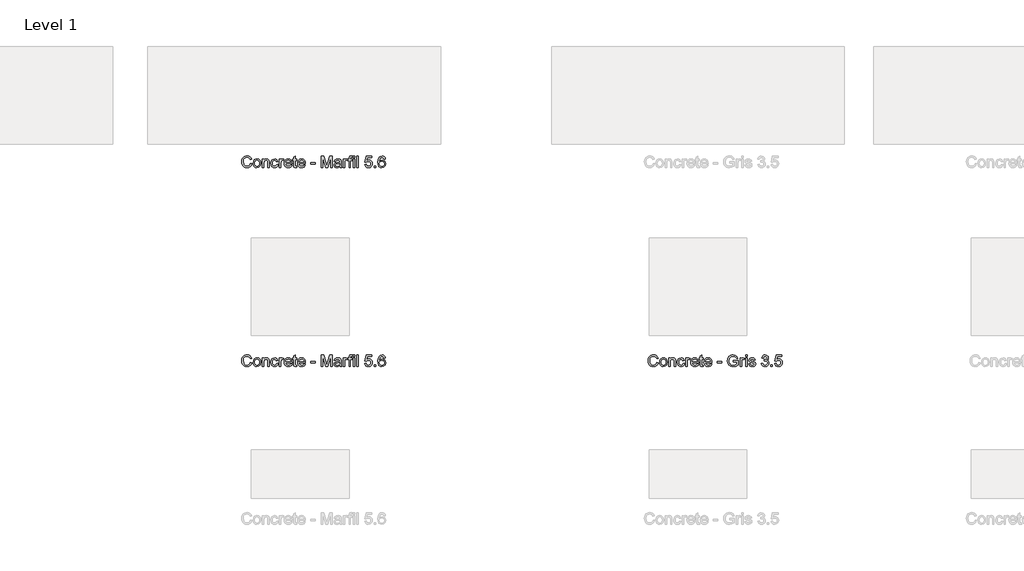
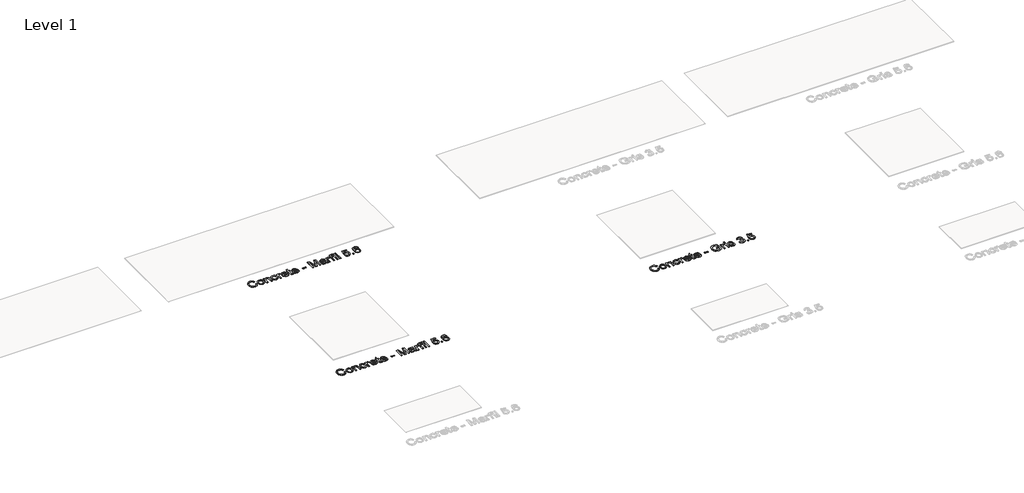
# One storey, part 45 of 80: 3 proxies.
"""IFC4 building model written with IfcOpenShell, lengths in millimetres."""

from ifc_helpers import new_model, si_unit, origin, origin_with_axes, place, context, project, spatial, polyline, outline, extrude, element, save

model = new_model("IFC4")

# Units and contexts
model_context = context("Model", 3, world=origin())
ifc_project = project(units=[si_unit("LENGTHUNIT", "METRE", prefix="MILLI")], contexts=[model_context])

# Site, building, storey
site = spatial("IfcSite", under=ifc_project)
building = spatial("IfcBuilding", under=site)
storey = spatial("IfcBuildingStorey", under=building, Name="Level 1", Elevation=0.0)

# Proxies
placement = place(None, origin())
element("IfcBuildingElementProxy", 1, Name="24\" Arial", ObjectType="24\" Arial", at=placement, inside=storey, context=model_context, shape_type="SweptSolid", body=[
    extrude(outline(polyline([(-23094.8409785, 10790.728562), (-23080.0717477, 10786.9208697), (-23086.8866516, 10769.7105332), (-23097.5813631, 10757.1372159), (-23111.6294401, 10749.4461101), (-23128.5044401, 10746.8824082), (-23145.6354497, 10748.822312), (-23159.240017, 10754.6420236), (-23169.6679016, 10764.1396197), (-23177.2688631, 10777.1131774), (-23181.9094881, 10792.3655813), (-23183.4563631, 10808.6997159), (-23181.7075651, 10825.9280813), (-23176.4611708, 10840.8054851), (-23167.9912189, 10852.8595717), (-23156.5717477, 10861.6179851), (-23143.0284785, 10866.9509178), (-23128.1871324, 10868.728562), (-23111.9936227, 10866.4280813), (-23098.6054016, 10859.526639), (-23088.4407381, 10848.4497159), (-23081.9179016, 10833.6227928), (-23096.6871324, 10830.103562), (-23101.8073247, 10840.8739947), (-23108.802517, 10848.2622159), (-23117.7592477, 10852.5350524), (-23128.7640554, 10853.9593313), (-23141.4491516, 10852.3800044), (-23151.8698247, 10847.6420236), (-23159.7772766, 10840.2429851), (-23164.9227093, 10830.6804851), (-23168.6871324, 10808.728562), (-23164.2304016, 10783.2862544), (-23158.5332862, 10773.7850524), (-23150.3554016, 10767.0314467), (-23129.9755939, 10761.651639), (-23117.6474689, 10763.4833697), (-23107.3746324, 10768.978562), (-23099.6186227, 10778.0795236), (-23094.8409785, 10790.728562)])), origin_with_axes(), (0.0, 0.0, 1.0), 2.0),
    extrude(outline(polyline([(-23065.302517, 10792.1131774), (-23062.1078054, 10813.0338505), (-23052.5236708, 10827.7381774), (-23040.6823247, 10834.9425044), (-23026.5044401, 10837.3439467), (-23010.9888151, 10834.4196678), (-22998.5957862, 10825.6468313), (-22990.4719881, 10811.7177447), (-22987.7640554, 10793.3247159), (-22992.552517, 10767.0458697), (-23006.4996324, 10752.1756774), (-23026.5044401, 10746.8824082), (-23042.2075651, 10749.7958697), (-23054.5861708, 10758.5362544), (-23062.6234304, 10772.7574082), (-23065.302517, 10792.1131774)]), holes=[polyline([(-23050.5332862, 10792.1420236), (-23048.8241516, 10778.775437), (-23043.6967477, 10769.2526005), (-23035.9804016, 10763.5518794), (-23026.5044401, 10761.651639), (-23017.0717477, 10763.5626967), (-23009.3698247, 10769.2958697), (-23004.2424208, 10778.9449082), (-23002.5332862, 10792.603562), (-23004.2532381, 10805.5807255), (-23009.4130939, 10814.9737544), (-23017.1258343, 10820.6744755), (-23026.5044401, 10822.5747159), (-23035.9804016, 10820.681687), (-23043.6967477, 10815.0026005), (-23048.8241516, 10805.5013986), (-23050.5332862, 10792.1420236)])]), origin_with_axes(), (0.0, 0.0, 1.0), 2.0),
    extrude(outline(polyline([(-22971.1486708, 10748.728562), (-22971.1486708, 10835.4977928), (-22956.3794401, 10835.4977928), (-22956.3794401, 10823.3824082), (-22945.0861708, 10833.853562), (-22929.6679016, 10837.3439467), (-22915.7207862, 10834.5314467), (-22906.2015554, 10827.1468313), (-22901.7736708, 10816.2862544), (-22900.9948247, 10802.0074082), (-22900.9948247, 10748.728562), (-22915.7640554, 10748.728562), (-22915.7640554, 10800.0170236), (-22917.4659785, 10813.0843313), (-22923.4804016, 10819.9929851), (-22933.6198247, 10822.5747159), (-22949.6438631, 10816.776639), (-22954.6955458, 10808.3751967), (-22956.3794401, 10794.7670236), (-22956.3794401, 10748.728562), (-22971.1486708, 10748.728562)])), origin_with_axes(), (0.0, 0.0, 1.0), 2.0),
    extrude(outline(polyline([(-22825.302517, 10780.1131774), (-22810.5332862, 10778.2670236), (-22814.6510747, 10765.1312063), (-22822.3890554, 10755.2045236), (-22833.0188631, 10748.962937), (-22845.8121324, 10746.8824082), (-22861.5224689, 10749.7850524), (-22873.8073247, 10758.4929851), (-22881.7364112, 10772.6239947), (-22884.3794401, 10791.7958697), (-22879.865017, 10816.3295236), (-22874.1679016, 10825.5278409), (-22866.1054016, 10832.0939467), (-22846.0140554, 10837.3439467), (-22833.5344881, 10835.541062), (-22823.5573247, 10830.1324082), (-22816.3998727, 10821.4064467), (-22812.3794401, 10809.651639), (-22827.1486708, 10807.8054851), (-22833.9996324, 10818.8679851), (-22845.8986708, 10822.5747159), (-22855.443142, 10820.7501967), (-22863.0188631, 10815.276639), (-22867.9623727, 10805.8583697), (-22869.6102093, 10792.1997159), (-22867.9984304, 10778.3571678), (-22863.1630939, 10768.9064467), (-22855.724392, 10763.4653409), (-22846.302517, 10761.651639), (-22832.3842477, 10766.1804851), (-22825.302517, 10780.1131774)])), origin_with_axes(), (0.0, 0.0, 1.0), 2.0),
    extrude(outline(polyline([(-22797.6102093, 10748.728562), (-22797.6102093, 10835.4977928), (-22784.6871324, 10835.4977928), (-22784.6871324, 10822.6612544), (-22775.5140554, 10834.4881774), (-22766.2832862, 10837.3439467), (-22751.4563631, 10832.7862544), (-22756.3890554, 10819.5458697), (-22766.7736708, 10822.5747159), (-22775.1246324, 10819.6612544), (-22780.4467477, 10811.5843313), (-22782.8409785, 10794.3343313), (-22782.8409785, 10748.728562), (-22797.6102093, 10748.728562)])), origin_with_axes(), (0.0, 0.0, 1.0), 2.0),
    extrude(outline(polyline([(-22681.4755939, 10774.5747159), (-22666.9948247, 10772.728562), (-22672.2123727, 10761.8175044), (-22680.5380939, 10753.6612544), (-22691.7844881, 10748.5771197), (-22705.7640554, 10746.8824082), (-22723.0933824, 10749.806687), (-22736.427517, 10758.5795236), (-22744.9299208, 10772.6312063), (-22747.7640554, 10791.3920236), (-22744.9010747, 10810.7838505), (-22736.3121324, 10825.2862544), (-22723.1582862, 10834.3295236), (-22706.6005939, 10837.3439467), (-22690.5585266, 10834.3367351), (-22677.740017, 10825.3151005), (-22669.3349689, 10810.8415428), (-22666.5332862, 10791.478562), (-22666.6198247, 10787.4977928), (-22732.9948247, 10787.4977928), (-22730.4383343, 10776.4425044), (-22724.4996324, 10768.3151005), (-22715.9287189, 10763.3175044), (-22705.4755939, 10761.651639), (-22690.9948247, 10764.7381774), (-22681.4755939, 10774.5747159)]), holes=[polyline([(-22732.9948247, 10802.2670236), (-22681.302517, 10802.2670236), (-22687.2159785, 10815.651639), (-22695.8265554, 10820.8439467), (-22706.6582862, 10822.5747159), (-22724.8457862, 10817.0506774), (-22730.568142, 10810.5927447), (-22732.9948247, 10802.2670236)])]), origin_with_axes(), (0.0, 0.0, 1.0), 2.0),
    extrude(outline(polyline([(-22620.3794401, 10761.0458697), (-22618.5332862, 10748.2958697), (-22629.5813631, 10746.8824082), (-22641.9563631, 10749.3343313), (-22648.1294401, 10755.7670236), (-22649.9179016, 10772.526639), (-22649.9179016, 10820.728562), (-22660.9948247, 10820.728562), (-22660.9948247, 10835.4977928), (-22649.9179016, 10835.4977928), (-22649.9179016, 10856.5843313), (-22635.1486708, 10865.2670236), (-22635.1486708, 10835.4977928), (-22620.3794401, 10835.4977928), (-22620.3794401, 10820.728562), (-22635.1486708, 10820.728562), (-22635.1486708, 10772.9593313), (-22634.3698247, 10765.3439467), (-22631.8457862, 10762.6468313), (-22626.8121324, 10761.651639), (-22620.3794401, 10761.0458697)])), origin_with_axes(), (0.0, 0.0, 1.0), 2.0),
    extrude(outline(polyline([(-22544.8602093, 10774.5747159), (-22530.3794401, 10772.728562), (-22535.5969881, 10761.8175044), (-22543.9227093, 10753.6612544), (-22555.1691035, 10748.5771197), (-22569.1486708, 10746.8824082), (-22586.4779977, 10749.806687), (-22599.8121324, 10758.5795236), (-22608.3145362, 10772.6312063), (-22611.1486708, 10791.3920236), (-22608.2856901, 10810.7838505), (-22599.6967477, 10825.2862544), (-22586.5429016, 10834.3295236), (-22569.9852093, 10837.3439467), (-22553.943142, 10834.3367351), (-22541.1246324, 10825.3151005), (-22532.7195843, 10810.8415428), (-22529.9179016, 10791.478562), (-22530.0044401, 10787.4977928), (-22596.3794401, 10787.4977928), (-22593.8229497, 10776.4425044), (-22587.8842477, 10768.3151005), (-22579.3133343, 10763.3175044), (-22568.8602093, 10761.651639), (-22554.3794401, 10764.7381774), (-22544.8602093, 10774.5747159)]), holes=[polyline([(-22596.3794401, 10802.2670236), (-22544.6871324, 10802.2670236), (-22550.6005939, 10815.651639), (-22559.2111708, 10820.8439467), (-22570.0429016, 10822.5747159), (-22588.2304016, 10817.0506774), (-22593.9527574, 10810.5927447), (-22596.3794401, 10802.2670236)])]), origin_with_axes(), (0.0, 0.0, 1.0), 2.0),
    extrude(outline(polyline([(-22476.3794401, 10783.8054851), (-22476.3794401, 10798.5747159), (-22430.2255939, 10798.5747159), (-22430.2255939, 10783.8054851), (-22476.3794401, 10783.8054851)])), origin_with_axes(), (0.0, 0.0, 1.0), 2.0),
    extrude(outline(polyline([(-22365.6102093, 10748.728562), (-22365.6102093, 10866.8824082), (-22340.1967477, 10866.8824082), (-22316.0236708, 10783.603562), (-22311.1486708, 10766.2093313), (-22305.8698247, 10785.0458697), (-22282.1005939, 10866.8824082), (-22256.6871324, 10866.8824082), (-22256.6871324, 10748.728562), (-22271.4563631, 10748.728562), (-22271.4563631, 10852.1131774), (-22301.1390554, 10748.728562), (-22321.1582862, 10748.728562), (-22350.8409785, 10852.1131774), (-22350.8409785, 10748.728562), (-22365.6102093, 10748.728562)])), origin_with_axes(), (0.0, 0.0, 1.0), 2.0),
    extrude(outline(polyline([(-22177.302517, 10759.8054851), (-22191.6246324, 10749.7958697), (-22207.4467477, 10746.8824082), (-22219.7892958, 10748.634812), (-22228.8938631, 10753.8920236), (-22234.5080458, 10761.8751967), (-22236.3794401, 10771.8054851), (-22233.552517, 10783.4881774), (-22226.1246324, 10791.9689467), (-22215.7832862, 10796.8151005), (-22203.0044401, 10799.0362544), (-22177.3890554, 10804.1131774), (-22177.302517, 10807.401639), (-22181.3698247, 10818.3054851), (-22197.6967477, 10822.5747159), (-22212.6390554, 10819.7333697), (-22219.7640554, 10809.651639), (-22234.5332862, 10811.4977928), (-22228.1438631, 10825.9208697), (-22215.2784785, 10834.3727928), (-22195.7929016, 10837.3439467), (-22177.8938631, 10834.7189467), (-22167.7832862, 10828.1276005), (-22163.2544401, 10818.103562), (-22162.5332862, 10805.1804851), (-22162.5332862, 10786.8054851), (-22161.7832862, 10761.1468313), (-22158.8409785, 10748.728562), (-22173.6102093, 10748.728562), (-22177.302517, 10759.8054851)]), holes=[polyline([(-22177.302517, 10789.3439467), (-22201.1294401, 10784.8151005), (-22213.8361708, 10782.4208697), (-22219.5909785, 10778.526639), (-22221.6102093, 10772.8439467), (-22217.2111708, 10764.853562), (-22204.302517, 10761.651639), (-22189.3602093, 10765.1852928), (-22179.7255939, 10773.7381774), (-22177.3890554, 10785.1612544), (-22177.302517, 10789.3439467)])]), origin_with_axes(), (0.0, 0.0, 1.0), 2.0),
    extrude(outline(polyline([(-22142.2255939, 10748.728562), (-22142.2255939, 10835.4977928), (-22129.302517, 10835.4977928), (-22129.302517, 10822.6612544), (-22120.1294401, 10834.4881774), (-22110.8986708, 10837.3439467), (-22096.0717477, 10832.7862544), (-22101.0044401, 10819.5458697), (-22111.3890554, 10822.5747159), (-22119.740017, 10819.6612544), (-22125.0621324, 10811.5843313), (-22127.4563631, 10794.3343313), (-22127.4563631, 10748.728562), (-22142.2255939, 10748.728562)])), origin_with_axes(), (0.0, 0.0, 1.0), 2.0),
    extrude(outline(polyline([(-22083.1486708, 10748.728562), (-22083.1486708, 10820.728562), (-22096.0717477, 10820.728562), (-22096.0717477, 10835.4977928), (-22083.1486708, 10835.4977928), (-22083.1486708, 10844.2381774), (-22081.5909785, 10856.5554851), (-22074.0332862, 10865.353562), (-22059.1486708, 10868.728562), (-22045.677517, 10867.1131774), (-22047.8409785, 10853.2670236), (-22056.3505939, 10853.9593313), (-22065.6534785, 10851.5074082), (-22068.3794401, 10842.3631774), (-22068.3794401, 10835.4977928), (-22051.7640554, 10835.4977928), (-22051.7640554, 10820.728562), (-22068.3794401, 10820.728562), (-22068.3794401, 10748.728562), (-22083.1486708, 10748.728562)])), origin_with_axes(), (0.0, 0.0, 1.0), 2.0),
    extrude(outline(polyline([(-22038.8409785, 10748.728562), (-22038.8409785, 10835.4977928), (-22024.0717477, 10835.4977928), (-22024.0717477, 10748.728562), (-22038.8409785, 10748.728562)])), origin_with_axes(), (0.0, 0.0, 1.0), 2.0),
    extrude(outline(polyline([(-22038.8409785, 10852.1131774), (-22038.8409785, 10866.8824082), (-22024.0717477, 10866.8824082), (-22024.0717477, 10852.1131774), (-22038.8409785, 10852.1131774)])), origin_with_axes(), (0.0, 0.0, 1.0), 2.0),
    extrude(outline(polyline([(-22001.9179016, 10748.728562), (-22001.9179016, 10866.8824082), (-21987.1486708, 10866.8824082), (-21987.1486708, 10748.728562), (-22001.9179016, 10748.728562)])), origin_with_axes(), (0.0, 0.0, 1.0), 2.0),
    extrude(outline(polyline([(-21922.5332862, 10780.1131774), (-21907.7640554, 10781.9593313), (-21900.3217477, 10766.7429851), (-21884.8890554, 10761.651639), (-21874.302517, 10763.4220717), (-21866.3698247, 10768.7333697), (-21861.4154977, 10776.9725524), (-21859.7640554, 10787.526639), (-21861.3109304, 10797.464139), (-21865.9515554, 10805.0651005), (-21873.7219881, 10809.8896197), (-21884.6582862, 10811.4977928), (-21897.6246324, 10808.9304851), (-21905.9179016, 10802.2670236), (-21920.6871324, 10804.1131774), (-21907.7640554, 10865.0362544), (-21850.5332862, 10865.0362544), (-21850.5332862, 10850.2670236), (-21895.8217477, 10850.2670236), (-21902.1390554, 10817.728562), (-21891.5885747, 10824.1324082), (-21880.5332862, 10826.2670236), (-21866.7340074, 10823.620389), (-21855.2784785, 10815.6804851), (-21847.5657381, 10803.5795236), (-21844.9948247, 10788.4497159), (-21847.3097285, 10773.6804851), (-21854.2544401, 10761.0458697), (-21867.552517, 10750.4232736), (-21884.9467477, 10746.8824082), (-21899.4527574, 10749.1576486), (-21911.0092477, 10755.9833697), (-21918.9311227, 10766.5663024), (-21922.5332862, 10780.1131774)])), origin_with_axes(), (0.0, 0.0, 1.0), 2.0),
    extrude(outline(polyline([(-21824.6871324, 10748.728562), (-21824.6871324, 10763.4977928), (-21809.9179016, 10763.4977928), (-21809.9179016, 10748.728562), (-21824.6871324, 10748.728562)])), origin_with_axes(), (0.0, 0.0, 1.0), 2.0),
    extrude(outline(polyline([(-21710.2255939, 10835.4977928), (-21724.9948247, 10833.651639), (-21730.5909785, 10845.9689467), (-21737.2904977, 10850.5771197), (-21745.3890554, 10852.1131774), (-21758.7159785, 10848.5362544), (-21768.7977093, 10835.1083697), (-21772.9948247, 10808.7862544), (-21759.9707862, 10820.5699082), (-21743.8313631, 10824.4208697), (-21730.1871324, 10821.7886582), (-21718.7352093, 10813.8920236), (-21710.9683824, 10801.8271197), (-21708.3794401, 10786.6901005), (-21713.2544401, 10766.3102928), (-21726.6679016, 10751.8872159), (-21746.0236708, 10746.8824082), (-21762.7796804, 10750.1997159), (-21776.1246324, 10760.151639), (-21784.8541997, 10777.7189467), (-21787.7640554, 10803.8824082), (-21784.5332862, 10833.2982736), (-21774.8409785, 10853.4112544), (-21761.6078054, 10863.5146197), (-21744.4659785, 10866.8824082), (-21731.5068439, 10864.7982736), (-21721.1294401, 10858.5458697), (-21713.8602093, 10848.6155813), (-21710.2255939, 10835.4977928)]), holes=[polyline([(-21772.9948247, 10786.9208697), (-21769.5765554, 10774.1276005), (-21760.490017, 10764.839139), (-21747.177517, 10761.651639), (-21737.4311227, 10763.3030813), (-21729.7688631, 10768.2574082), (-21724.8037189, 10776.0458697), (-21723.1486708, 10786.1997159), (-21724.7820843, 10795.9461101), (-21729.6823247, 10803.3776005), (-21737.474392, 10808.0831294), (-21747.7832862, 10809.651639), (-21757.5152574, 10808.0831294), (-21765.6534785, 10803.3776005), (-21771.1594881, 10796.1263986), (-21772.9948247, 10786.9208697)])]), origin_with_axes(), (0.0, 0.0, 1.0), 2.0),
])
element("IfcBuildingElementProxy", 2, Name="24\" Arial", ObjectType="24\" Arial", at=placement, inside=storey, context=model_context, shape_type="SweptSolid", body=[
    extrude(outline(polyline([(-23094.8409785, 8750.084666), (-23080.0717477, 8746.2769737), (-23086.8866516, 8729.0666372), (-23097.5813631, 8716.4933199), (-23111.6294401, 8708.8022141), (-23128.5044401, 8706.2385122), (-23145.6354497, 8708.178416), (-23159.240017, 8713.9981275), (-23169.6679016, 8723.4957237), (-23177.2688631, 8736.4692814), (-23181.9094881, 8751.7216852), (-23183.4563631, 8768.0558199), (-23181.7075651, 8785.2841852), (-23176.4611708, 8800.1615891), (-23167.9912189, 8812.2156756), (-23156.5717477, 8820.9740891), (-23143.0284785, 8826.3070218), (-23128.1871324, 8828.084666), (-23111.9936227, 8825.7841852), (-23098.6054016, 8818.8827429), (-23088.4407381, 8807.8058199), (-23081.9179016, 8792.9788968), (-23096.6871324, 8789.459666), (-23101.8073247, 8800.2300987), (-23108.802517, 8807.6183199), (-23117.7592477, 8811.8911564), (-23128.7640554, 8813.3154352), (-23141.4491516, 8811.7361083), (-23151.8698247, 8806.9981275), (-23159.7772766, 8799.5990891), (-23164.9227093, 8790.0365891), (-23168.6871324, 8768.084666), (-23164.2304016, 8742.6423583), (-23158.5332862, 8733.1411564), (-23150.3554016, 8726.3875506), (-23129.9755939, 8721.0077429), (-23117.6474689, 8722.8394737), (-23107.3746324, 8728.334666), (-23099.6186227, 8737.4356275), (-23094.8409785, 8750.084666)])), origin_with_axes(), (0.0, 0.0, 1.0), 2.0),
    extrude(outline(polyline([(-23065.302517, 8751.4692814), (-23062.1078054, 8772.3899545), (-23052.5236708, 8787.0942814), (-23040.6823247, 8794.2986083), (-23026.5044401, 8796.7000506), (-23010.9888151, 8793.7757718), (-22998.5957862, 8785.0029352), (-22990.4719881, 8771.0738487), (-22987.7640554, 8752.6808199), (-22992.552517, 8726.4019737), (-23006.4996324, 8711.5317814), (-23026.5044401, 8706.2385122), (-23042.2075651, 8709.1519737), (-23054.5861708, 8717.8923583), (-23062.6234304, 8732.1135122), (-23065.302517, 8751.4692814)]), holes=[polyline([(-23050.5332862, 8751.4981275), (-23048.8241516, 8738.131541), (-23043.6967477, 8728.6087045), (-23035.9804016, 8722.9079833), (-23026.5044401, 8721.0077429), (-23017.0717477, 8722.9188006), (-23009.3698247, 8728.6519737), (-23004.2424208, 8738.3010122), (-23002.5332862, 8751.959666), (-23004.2532381, 8764.9368295), (-23009.4130939, 8774.3298583), (-23017.1258343, 8780.0305795), (-23026.5044401, 8781.9308199), (-23035.9804016, 8780.037791), (-23043.6967477, 8774.3587045), (-23048.8241516, 8764.8575025), (-23050.5332862, 8751.4981275)])]), origin_with_axes(), (0.0, 0.0, 1.0), 2.0),
    extrude(outline(polyline([(-22971.1486708, 8708.084666), (-22971.1486708, 8794.8538968), (-22956.3794401, 8794.8538968), (-22956.3794401, 8782.7385122), (-22945.0861708, 8793.209666), (-22929.6679016, 8796.7000506), (-22915.7207862, 8793.8875506), (-22906.2015554, 8786.5029352), (-22901.7736708, 8775.6423583), (-22900.9948247, 8761.3635122), (-22900.9948247, 8708.084666), (-22915.7640554, 8708.084666), (-22915.7640554, 8759.3731275), (-22917.4659785, 8772.4404352), (-22923.4804016, 8779.3490891), (-22933.6198247, 8781.9308199), (-22949.6438631, 8776.1327429), (-22954.6955458, 8767.7313006), (-22956.3794401, 8754.1231275), (-22956.3794401, 8708.084666), (-22971.1486708, 8708.084666)])), origin_with_axes(), (0.0, 0.0, 1.0), 2.0),
    extrude(outline(polyline([(-22825.302517, 8739.4692814), (-22810.5332862, 8737.6231275), (-22814.6510747, 8724.4873102), (-22822.3890554, 8714.5606275), (-22833.0188631, 8708.319041), (-22845.8121324, 8706.2385122), (-22861.5224689, 8709.1411564), (-22873.8073247, 8717.8490891), (-22881.7364112, 8731.9800987), (-22884.3794401, 8751.1519737), (-22879.865017, 8775.6856275), (-22874.1679016, 8784.8839449), (-22866.1054016, 8791.4500506), (-22846.0140554, 8796.7000506), (-22833.5344881, 8794.897166), (-22823.5573247, 8789.4885122), (-22816.3998727, 8780.7625506), (-22812.3794401, 8769.0077429), (-22827.1486708, 8767.1615891), (-22833.9996324, 8778.2240891), (-22845.8986708, 8781.9308199), (-22855.443142, 8780.1063006), (-22863.0188631, 8774.6327429), (-22867.9623727, 8765.2144737), (-22869.6102093, 8751.5558199), (-22867.9984304, 8737.7132718), (-22863.1630939, 8728.2625506), (-22855.724392, 8722.8214449), (-22846.302517, 8721.0077429), (-22832.3842477, 8725.5365891), (-22825.302517, 8739.4692814)])), origin_with_axes(), (0.0, 0.0, 1.0), 2.0),
    extrude(outline(polyline([(-22797.6102093, 8708.084666), (-22797.6102093, 8794.8538968), (-22784.6871324, 8794.8538968), (-22784.6871324, 8782.0173583), (-22775.5140554, 8793.8442814), (-22766.2832862, 8796.7000506), (-22751.4563631, 8792.1423583), (-22756.3890554, 8778.9019737), (-22766.7736708, 8781.9308199), (-22775.1246324, 8779.0173583), (-22780.4467477, 8770.9404352), (-22782.8409785, 8753.6904352), (-22782.8409785, 8708.084666), (-22797.6102093, 8708.084666)])), origin_with_axes(), (0.0, 0.0, 1.0), 2.0),
    extrude(outline(polyline([(-22681.4755939, 8733.9308199), (-22666.9948247, 8732.084666), (-22672.2123727, 8721.1736083), (-22680.5380939, 8713.0173583), (-22691.7844881, 8707.9332237), (-22705.7640554, 8706.2385122), (-22723.0933824, 8709.162791), (-22736.427517, 8717.9356275), (-22744.9299208, 8731.9873102), (-22747.7640554, 8750.7481275), (-22744.9010747, 8770.1399545), (-22736.3121324, 8784.6423583), (-22723.1582862, 8793.6856275), (-22706.6005939, 8796.7000506), (-22690.5585266, 8793.6928391), (-22677.740017, 8784.6712045), (-22669.3349689, 8770.1976468), (-22666.5332862, 8750.834666), (-22666.6198247, 8746.8538968), (-22732.9948247, 8746.8538968), (-22730.4383343, 8735.7986083), (-22724.4996324, 8727.6712045), (-22715.9287189, 8722.6736083), (-22705.4755939, 8721.0077429), (-22690.9948247, 8724.0942814), (-22681.4755939, 8733.9308199)]), holes=[polyline([(-22732.9948247, 8761.6231275), (-22681.302517, 8761.6231275), (-22687.2159785, 8775.0077429), (-22695.8265554, 8780.2000506), (-22706.6582862, 8781.9308199), (-22724.8457862, 8776.4067814), (-22730.568142, 8769.9488487), (-22732.9948247, 8761.6231275)])]), origin_with_axes(), (0.0, 0.0, 1.0), 2.0),
    extrude(outline(polyline([(-22620.3794401, 8720.4019737), (-22618.5332862, 8707.6519737), (-22629.5813631, 8706.2385122), (-22641.9563631, 8708.6904352), (-22648.1294401, 8715.1231275), (-22649.9179016, 8731.8827429), (-22649.9179016, 8780.084666), (-22660.9948247, 8780.084666), (-22660.9948247, 8794.8538968), (-22649.9179016, 8794.8538968), (-22649.9179016, 8815.9404352), (-22635.1486708, 8824.6231275), (-22635.1486708, 8794.8538968), (-22620.3794401, 8794.8538968), (-22620.3794401, 8780.084666), (-22635.1486708, 8780.084666), (-22635.1486708, 8732.3154352), (-22634.3698247, 8724.7000506), (-22631.8457862, 8722.0029352), (-22626.8121324, 8721.0077429), (-22620.3794401, 8720.4019737)])), origin_with_axes(), (0.0, 0.0, 1.0), 2.0),
    extrude(outline(polyline([(-22544.8602093, 8733.9308199), (-22530.3794401, 8732.084666), (-22535.5969881, 8721.1736083), (-22543.9227093, 8713.0173583), (-22555.1691035, 8707.9332237), (-22569.1486708, 8706.2385122), (-22586.4779977, 8709.162791), (-22599.8121324, 8717.9356275), (-22608.3145362, 8731.9873102), (-22611.1486708, 8750.7481275), (-22608.2856901, 8770.1399545), (-22599.6967477, 8784.6423583), (-22586.5429016, 8793.6856275), (-22569.9852093, 8796.7000506), (-22553.943142, 8793.6928391), (-22541.1246324, 8784.6712045), (-22532.7195843, 8770.1976468), (-22529.9179016, 8750.834666), (-22530.0044401, 8746.8538968), (-22596.3794401, 8746.8538968), (-22593.8229497, 8735.7986083), (-22587.8842477, 8727.6712045), (-22579.3133343, 8722.6736083), (-22568.8602093, 8721.0077429), (-22554.3794401, 8724.0942814), (-22544.8602093, 8733.9308199)]), holes=[polyline([(-22596.3794401, 8761.6231275), (-22544.6871324, 8761.6231275), (-22550.6005939, 8775.0077429), (-22559.2111708, 8780.2000506), (-22570.0429016, 8781.9308199), (-22588.2304016, 8776.4067814), (-22593.9527574, 8769.9488487), (-22596.3794401, 8761.6231275)])]), origin_with_axes(), (0.0, 0.0, 1.0), 2.0),
    extrude(outline(polyline([(-22476.3794401, 8743.1615891), (-22476.3794401, 8757.9308199), (-22430.2255939, 8757.9308199), (-22430.2255939, 8743.1615891), (-22476.3794401, 8743.1615891)])), origin_with_axes(), (0.0, 0.0, 1.0), 2.0),
    extrude(outline(polyline([(-22365.6102093, 8708.084666), (-22365.6102093, 8826.2385122), (-22340.1967477, 8826.2385122), (-22316.0236708, 8742.959666), (-22311.1486708, 8725.5654352), (-22305.8698247, 8744.4019737), (-22282.1005939, 8826.2385122), (-22256.6871324, 8826.2385122), (-22256.6871324, 8708.084666), (-22271.4563631, 8708.084666), (-22271.4563631, 8811.4692814), (-22301.1390554, 8708.084666), (-22321.1582862, 8708.084666), (-22350.8409785, 8811.4692814), (-22350.8409785, 8708.084666), (-22365.6102093, 8708.084666)])), origin_with_axes(), (0.0, 0.0, 1.0), 2.0),
    extrude(outline(polyline([(-22177.302517, 8719.1615891), (-22191.6246324, 8709.1519737), (-22207.4467477, 8706.2385122), (-22219.7892958, 8707.990916), (-22228.8938631, 8713.2481275), (-22234.5080458, 8721.2313006), (-22236.3794401, 8731.1615891), (-22233.552517, 8742.8442814), (-22226.1246324, 8751.3250506), (-22215.7832862, 8756.1712045), (-22203.0044401, 8758.3923583), (-22177.3890554, 8763.4692814), (-22177.302517, 8766.7577429), (-22181.3698247, 8777.6615891), (-22197.6967477, 8781.9308199), (-22212.6390554, 8779.0894737), (-22219.7640554, 8769.0077429), (-22234.5332862, 8770.8538968), (-22228.1438631, 8785.2769737), (-22215.2784785, 8793.7288968), (-22195.7929016, 8796.7000506), (-22177.8938631, 8794.0750506), (-22167.7832862, 8787.4837045), (-22163.2544401, 8777.459666), (-22162.5332862, 8764.5365891), (-22162.5332862, 8746.1615891), (-22161.7832862, 8720.5029352), (-22158.8409785, 8708.084666), (-22173.6102093, 8708.084666), (-22177.302517, 8719.1615891)]), holes=[polyline([(-22177.302517, 8748.7000506), (-22201.1294401, 8744.1712045), (-22213.8361708, 8741.7769737), (-22219.5909785, 8737.8827429), (-22221.6102093, 8732.2000506), (-22217.2111708, 8724.209666), (-22204.302517, 8721.0077429), (-22189.3602093, 8724.5413968), (-22179.7255939, 8733.0942814), (-22177.3890554, 8744.5173583), (-22177.302517, 8748.7000506)])]), origin_with_axes(), (0.0, 0.0, 1.0), 2.0),
    extrude(outline(polyline([(-22142.2255939, 8708.084666), (-22142.2255939, 8794.8538968), (-22129.302517, 8794.8538968), (-22129.302517, 8782.0173583), (-22120.1294401, 8793.8442814), (-22110.8986708, 8796.7000506), (-22096.0717477, 8792.1423583), (-22101.0044401, 8778.9019737), (-22111.3890554, 8781.9308199), (-22119.740017, 8779.0173583), (-22125.0621324, 8770.9404352), (-22127.4563631, 8753.6904352), (-22127.4563631, 8708.084666), (-22142.2255939, 8708.084666)])), origin_with_axes(), (0.0, 0.0, 1.0), 2.0),
    extrude(outline(polyline([(-22083.1486708, 8708.084666), (-22083.1486708, 8780.084666), (-22096.0717477, 8780.084666), (-22096.0717477, 8794.8538968), (-22083.1486708, 8794.8538968), (-22083.1486708, 8803.5942814), (-22081.5909785, 8815.9115891), (-22074.0332862, 8824.709666), (-22059.1486708, 8828.084666), (-22045.677517, 8826.4692814), (-22047.8409785, 8812.6231275), (-22056.3505939, 8813.3154352), (-22065.6534785, 8810.8635122), (-22068.3794401, 8801.7192814), (-22068.3794401, 8794.8538968), (-22051.7640554, 8794.8538968), (-22051.7640554, 8780.084666), (-22068.3794401, 8780.084666), (-22068.3794401, 8708.084666), (-22083.1486708, 8708.084666)])), origin_with_axes(), (0.0, 0.0, 1.0), 2.0),
    extrude(outline(polyline([(-22038.8409785, 8708.084666), (-22038.8409785, 8794.8538968), (-22024.0717477, 8794.8538968), (-22024.0717477, 8708.084666), (-22038.8409785, 8708.084666)])), origin_with_axes(), (0.0, 0.0, 1.0), 2.0),
    extrude(outline(polyline([(-22038.8409785, 8811.4692814), (-22038.8409785, 8826.2385122), (-22024.0717477, 8826.2385122), (-22024.0717477, 8811.4692814), (-22038.8409785, 8811.4692814)])), origin_with_axes(), (0.0, 0.0, 1.0), 2.0),
    extrude(outline(polyline([(-22001.9179016, 8708.084666), (-22001.9179016, 8826.2385122), (-21987.1486708, 8826.2385122), (-21987.1486708, 8708.084666), (-22001.9179016, 8708.084666)])), origin_with_axes(), (0.0, 0.0, 1.0), 2.0),
    extrude(outline(polyline([(-21922.5332862, 8739.4692814), (-21907.7640554, 8741.3154352), (-21900.3217477, 8726.0990891), (-21884.8890554, 8721.0077429), (-21874.302517, 8722.7781756), (-21866.3698247, 8728.0894737), (-21861.4154977, 8736.3286564), (-21859.7640554, 8746.8827429), (-21861.3109304, 8756.8202429), (-21865.9515554, 8764.4212045), (-21873.7219881, 8769.2457237), (-21884.6582862, 8770.8538968), (-21897.6246324, 8768.2865891), (-21905.9179016, 8761.6231275), (-21920.6871324, 8763.4692814), (-21907.7640554, 8824.3923583), (-21850.5332862, 8824.3923583), (-21850.5332862, 8809.6231275), (-21895.8217477, 8809.6231275), (-21902.1390554, 8777.084666), (-21891.5885747, 8783.4885122), (-21880.5332862, 8785.6231275), (-21866.7340074, 8782.9764929), (-21855.2784785, 8775.0365891), (-21847.5657381, 8762.9356275), (-21844.9948247, 8747.8058199), (-21847.3097285, 8733.0365891), (-21854.2544401, 8720.4019737), (-21867.552517, 8709.7793775), (-21884.9467477, 8706.2385122), (-21899.4527574, 8708.5137525), (-21911.0092477, 8715.3394737), (-21918.9311227, 8725.9224064), (-21922.5332862, 8739.4692814)])), origin_with_axes(), (0.0, 0.0, 1.0), 2.0),
    extrude(outline(polyline([(-21824.6871324, 8708.084666), (-21824.6871324, 8722.8538968), (-21809.9179016, 8722.8538968), (-21809.9179016, 8708.084666), (-21824.6871324, 8708.084666)])), origin_with_axes(), (0.0, 0.0, 1.0), 2.0),
    extrude(outline(polyline([(-21710.2255939, 8794.8538968), (-21724.9948247, 8793.0077429), (-21730.5909785, 8805.3250506), (-21737.2904977, 8809.9332237), (-21745.3890554, 8811.4692814), (-21758.7159785, 8807.8923583), (-21768.7977093, 8794.4644737), (-21772.9948247, 8768.1423583), (-21759.9707862, 8779.9260122), (-21743.8313631, 8783.7769737), (-21730.1871324, 8781.1447622), (-21718.7352093, 8773.2481275), (-21710.9683824, 8761.1832237), (-21708.3794401, 8746.0462045), (-21713.2544401, 8725.6663968), (-21726.6679016, 8711.2433199), (-21746.0236708, 8706.2385122), (-21762.7796804, 8709.5558199), (-21776.1246324, 8719.5077429), (-21784.8541997, 8737.0750506), (-21787.7640554, 8763.2385122), (-21784.5332862, 8792.6543775), (-21774.8409785, 8812.7673583), (-21761.6078054, 8822.8707237), (-21744.4659785, 8826.2385122), (-21731.5068439, 8824.1543775), (-21721.1294401, 8817.9019737), (-21713.8602093, 8807.9716852), (-21710.2255939, 8794.8538968)]), holes=[polyline([(-21772.9948247, 8746.2769737), (-21769.5765554, 8733.4837045), (-21760.490017, 8724.1952429), (-21747.177517, 8721.0077429), (-21737.4311227, 8722.6591852), (-21729.7688631, 8727.6135122), (-21724.8037189, 8735.4019737), (-21723.1486708, 8745.5558199), (-21724.7820843, 8755.3022141), (-21729.6823247, 8762.7337045), (-21737.474392, 8767.4392333), (-21747.7832862, 8769.0077429), (-21757.5152574, 8767.4392333), (-21765.6534785, 8762.7337045), (-21771.1594881, 8755.4825025), (-21772.9948247, 8746.2769737)])]), origin_with_axes(), (0.0, 0.0, 1.0), 2.0),
])
element("IfcBuildingElementProxy", 3, Name="24\" Arial", ObjectType="24\" Arial", at=placement, inside=storey, context=model_context, shape_type="SweptSolid", body=[
    extrude(outline(polyline([(-18929.1573911, 8750.084666), (-18914.3881604, 8746.2769737), (-18921.2030642, 8729.0666372), (-18931.8977757, 8716.4933199), (-18945.9458527, 8708.8022141), (-18962.8208527, 8706.2385122), (-18979.9518623, 8708.178416), (-18993.5564296, 8713.9981275), (-19003.9843142, 8723.4957237), (-19011.5852757, 8736.4692814), (-19016.2259007, 8751.7216852), (-19017.7727757, 8768.0558199), (-19016.0239777, 8785.2841852), (-19010.7775834, 8800.1615891), (-19002.3076315, 8812.2156756), (-18990.8881604, 8820.9740891), (-18977.3448911, 8826.3070218), (-18962.503545, 8828.084666), (-18946.3100354, 8825.7841852), (-18932.9218142, 8818.8827429), (-18922.7571507, 8807.8058199), (-18916.2343142, 8792.9788968), (-18931.003545, 8789.459666), (-18936.1237373, 8800.2300987), (-18943.1189296, 8807.6183199), (-18952.0756604, 8811.8911564), (-18963.0804681, 8813.3154352), (-18975.7655642, 8811.7361083), (-18986.1862373, 8806.9981275), (-18994.0936892, 8799.5990891), (-18999.2391219, 8790.0365891), (-19003.003545, 8768.084666), (-18998.5468142, 8742.6423583), (-18992.8496988, 8733.1411564), (-18984.6718142, 8726.3875506), (-18964.2920065, 8721.0077429), (-18951.9638815, 8722.8394737), (-18941.691045, 8728.334666), (-18933.9350354, 8737.4356275), (-18929.1573911, 8750.084666)])), origin_with_axes(), (0.0, 0.0, 1.0), 2.0),
    extrude(outline(polyline([(-18899.6189296, 8751.4692814), (-18896.4242181, 8772.3899545), (-18886.8400834, 8787.0942814), (-18874.9987373, 8794.2986083), (-18860.8208527, 8796.7000506), (-18845.3052277, 8793.7757718), (-18832.9121988, 8785.0029352), (-18824.7884007, 8771.0738487), (-18822.0804681, 8752.6808199), (-18826.8689296, 8726.4019737), (-18840.816045, 8711.5317814), (-18860.8208527, 8706.2385122), (-18876.5239777, 8709.1519737), (-18888.9025834, 8717.8923583), (-18896.9398431, 8732.1135122), (-18899.6189296, 8751.4692814)]), holes=[polyline([(-18884.8496988, 8751.4981275), (-18883.1405642, 8738.131541), (-18878.0131604, 8728.6087045), (-18870.2968142, 8722.9079833), (-18860.8208527, 8721.0077429), (-18851.3881604, 8722.9188006), (-18843.6862373, 8728.6519737), (-18838.5588334, 8738.3010122), (-18836.8496988, 8751.959666), (-18838.5696507, 8764.9368295), (-18843.7295065, 8774.3298583), (-18851.4422469, 8780.0305795), (-18860.8208527, 8781.9308199), (-18870.2968142, 8780.037791), (-18878.0131604, 8774.3587045), (-18883.1405642, 8764.8575025), (-18884.8496988, 8751.4981275)])]), origin_with_axes(), (0.0, 0.0, 1.0), 2.0),
    extrude(outline(polyline([(-18805.4650834, 8708.084666), (-18805.4650834, 8794.8538968), (-18790.6958527, 8794.8538968), (-18790.6958527, 8782.7385122), (-18779.4025834, 8793.209666), (-18763.9843142, 8796.7000506), (-18750.0371988, 8793.8875506), (-18740.5179681, 8786.5029352), (-18736.0900834, 8775.6423583), (-18735.3112373, 8761.3635122), (-18735.3112373, 8708.084666), (-18750.0804681, 8708.084666), (-18750.0804681, 8759.3731275), (-18751.7823911, 8772.4404352), (-18757.7968142, 8779.3490891), (-18767.9362373, 8781.9308199), (-18783.9602757, 8776.1327429), (-18789.0119584, 8767.7313006), (-18790.6958527, 8754.1231275), (-18790.6958527, 8708.084666), (-18805.4650834, 8708.084666)])), origin_with_axes(), (0.0, 0.0, 1.0), 2.0),
    extrude(outline(polyline([(-18659.6189296, 8739.4692814), (-18644.8496988, 8737.6231275), (-18648.9674873, 8724.4873102), (-18656.7054681, 8714.5606275), (-18667.3352757, 8708.319041), (-18680.128545, 8706.2385122), (-18695.8388815, 8709.1411564), (-18708.1237373, 8717.8490891), (-18716.0528238, 8731.9800987), (-18718.6958527, 8751.1519737), (-18714.1814296, 8775.6856275), (-18708.4843142, 8784.8839449), (-18700.4218142, 8791.4500506), (-18680.3304681, 8796.7000506), (-18667.8509007, 8794.897166), (-18657.8737373, 8789.4885122), (-18650.7162854, 8780.7625506), (-18646.6958527, 8769.0077429), (-18661.4650834, 8767.1615891), (-18668.316045, 8778.2240891), (-18680.2150834, 8781.9308199), (-18689.7595546, 8780.1063006), (-18697.3352757, 8774.6327429), (-18702.2787854, 8765.2144737), (-18703.9266219, 8751.5558199), (-18702.3148431, 8737.7132718), (-18697.4795065, 8728.2625506), (-18690.0408046, 8722.8214449), (-18680.6189296, 8721.0077429), (-18666.7006604, 8725.5365891), (-18659.6189296, 8739.4692814)])), origin_with_axes(), (0.0, 0.0, 1.0), 2.0),
    extrude(outline(polyline([(-18631.9266219, 8708.084666), (-18631.9266219, 8794.8538968), (-18619.003545, 8794.8538968), (-18619.003545, 8782.0173583), (-18609.8304681, 8793.8442814), (-18600.5996988, 8796.7000506), (-18585.7727757, 8792.1423583), (-18590.7054681, 8778.9019737), (-18601.0900834, 8781.9308199), (-18609.441045, 8779.0173583), (-18614.7631604, 8770.9404352), (-18617.1573911, 8753.6904352), (-18617.1573911, 8708.084666), (-18631.9266219, 8708.084666)])), origin_with_axes(), (0.0, 0.0, 1.0), 2.0),
    extrude(outline(polyline([(-18515.7920065, 8733.9308199), (-18501.3112373, 8732.084666), (-18506.5287854, 8721.1736083), (-18514.8545065, 8713.0173583), (-18526.1009007, 8707.9332237), (-18540.0804681, 8706.2385122), (-18557.409795, 8709.162791), (-18570.7439296, 8717.9356275), (-18579.2463334, 8731.9873102), (-18582.0804681, 8750.7481275), (-18579.2174873, 8770.1399545), (-18570.628545, 8784.6423583), (-18557.4746988, 8793.6856275), (-18540.9170065, 8796.7000506), (-18524.8749392, 8793.6928391), (-18512.0564296, 8784.6712045), (-18503.6513815, 8770.1976468), (-18500.8496988, 8750.834666), (-18500.9362373, 8746.8538968), (-18567.3112373, 8746.8538968), (-18564.7547469, 8735.7986083), (-18558.816045, 8727.6712045), (-18550.2451315, 8722.6736083), (-18539.7920065, 8721.0077429), (-18525.3112373, 8724.0942814), (-18515.7920065, 8733.9308199)]), holes=[polyline([(-18567.3112373, 8761.6231275), (-18515.6189296, 8761.6231275), (-18521.5323911, 8775.0077429), (-18530.1429681, 8780.2000506), (-18540.9746988, 8781.9308199), (-18559.1621988, 8776.4067814), (-18564.8845546, 8769.9488487), (-18567.3112373, 8761.6231275)])]), origin_with_axes(), (0.0, 0.0, 1.0), 2.0),
    extrude(outline(polyline([(-18454.6958527, 8720.4019737), (-18452.8496988, 8707.6519737), (-18463.8977757, 8706.2385122), (-18476.2727757, 8708.6904352), (-18482.4458527, 8715.1231275), (-18484.2343142, 8731.8827429), (-18484.2343142, 8780.084666), (-18495.3112373, 8780.084666), (-18495.3112373, 8794.8538968), (-18484.2343142, 8794.8538968), (-18484.2343142, 8815.9404352), (-18469.4650834, 8824.6231275), (-18469.4650834, 8794.8538968), (-18454.6958527, 8794.8538968), (-18454.6958527, 8780.084666), (-18469.4650834, 8780.084666), (-18469.4650834, 8732.3154352), (-18468.6862373, 8724.7000506), (-18466.1621988, 8722.0029352), (-18461.128545, 8721.0077429), (-18454.6958527, 8720.4019737)])), origin_with_axes(), (0.0, 0.0, 1.0), 2.0),
    extrude(outline(polyline([(-18379.1766219, 8733.9308199), (-18364.6958527, 8732.084666), (-18369.9134007, 8721.1736083), (-18378.2391219, 8713.0173583), (-18389.4855161, 8707.9332237), (-18403.4650834, 8706.2385122), (-18420.7944104, 8709.162791), (-18434.128545, 8717.9356275), (-18442.6309488, 8731.9873102), (-18445.4650834, 8750.7481275), (-18442.6021027, 8770.1399545), (-18434.0131604, 8784.6423583), (-18420.8593142, 8793.6856275), (-18404.3016219, 8796.7000506), (-18388.2595546, 8793.6928391), (-18375.441045, 8784.6712045), (-18367.0359969, 8770.1976468), (-18364.2343142, 8750.834666), (-18364.3208527, 8746.8538968), (-18430.6958527, 8746.8538968), (-18428.1393623, 8735.7986083), (-18422.2006604, 8727.6712045), (-18413.6297469, 8722.6736083), (-18403.1766219, 8721.0077429), (-18388.6958527, 8724.0942814), (-18379.1766219, 8733.9308199)]), holes=[polyline([(-18430.6958527, 8761.6231275), (-18379.003545, 8761.6231275), (-18384.9170065, 8775.0077429), (-18393.5275834, 8780.2000506), (-18404.3593142, 8781.9308199), (-18422.5468142, 8776.4067814), (-18428.26917, 8769.9488487), (-18430.6958527, 8761.6231275)])]), origin_with_axes(), (0.0, 0.0, 1.0), 2.0),
    extrude(outline(polyline([(-18310.6958527, 8743.1615891), (-18310.6958527, 8757.9308199), (-18264.5420065, 8757.9308199), (-18264.5420065, 8743.1615891), (-18310.6958527, 8743.1615891)])), origin_with_axes(), (0.0, 0.0, 1.0), 2.0),
    extrude(outline(polyline([(-18144.5420065, 8754.2385122), (-18144.5420065, 8769.0077429), (-18096.5420065, 8769.0077429), (-18096.5420065, 8724.8442814), (-18120.2391219, 8710.9115891), (-18145.2920065, 8706.2385122), (-18161.8605161, 8708.0954833), (-18176.8352757, 8713.6663968), (-18189.2751796, 8722.756541), (-18198.2391219, 8735.1712045), (-18203.6585931, 8750.0630314), (-18205.4650834, 8766.584666), (-18203.6658046, 8783.225291), (-18198.2679681, 8798.7048583), (-18189.4951315, 8811.6892333), (-18177.5708527, 8820.8442814), (-18163.0468142, 8826.2745699), (-18146.4746988, 8828.084666), (-18123.3689296, 8823.8875506), (-18107.1718142, 8812.2048583), (-18098.2439296, 8792.6615891), (-18111.8593142, 8788.8250506), (-18118.5948911, 8802.4837045), (-18130.1045065, 8810.3587045), (-18146.7054681, 8813.3154352), (-18165.6141219, 8810.1279352), (-18178.4795065, 8801.7625506), (-18186.0804681, 8790.3827429), (-18190.6958527, 8767.1904352), (-18189.3076315, 8753.0666372), (-18185.1429681, 8741.4452429), (-18178.3280642, 8732.4091852), (-18168.9891219, 8726.0413968), (-18146.4746988, 8721.0077429), (-18126.2679681, 8724.8010122), (-18111.3112373, 8732.8923583), (-18111.3112373, 8754.2385122), (-18144.5420065, 8754.2385122)])), origin_with_axes(), (0.0, 0.0, 1.0), 2.0),
    extrude(outline(polyline([(-18074.3881604, 8708.084666), (-18074.3881604, 8794.8538968), (-18061.4650834, 8794.8538968), (-18061.4650834, 8782.0173583), (-18052.2920065, 8793.8442814), (-18043.0612373, 8796.7000506), (-18028.2343142, 8792.1423583), (-18033.1670065, 8778.9019737), (-18043.5516219, 8781.9308199), (-18051.9025834, 8779.0173583), (-18057.2246988, 8770.9404352), (-18059.6189296, 8753.6904352), (-18059.6189296, 8708.084666), (-18074.3881604, 8708.084666)])), origin_with_axes(), (0.0, 0.0, 1.0), 2.0),
    extrude(outline(polyline([(-18019.003545, 8811.4692814), (-18019.003545, 8826.2385122), (-18004.2343142, 8826.2385122), (-18004.2343142, 8811.4692814), (-18019.003545, 8811.4692814)])), origin_with_axes(), (0.0, 0.0, 1.0), 2.0),
    extrude(outline(polyline([(-18019.003545, 8708.084666), (-18019.003545, 8794.8538968), (-18004.2343142, 8794.8538968), (-18004.2343142, 8708.084666), (-18019.003545, 8708.084666)])), origin_with_axes(), (0.0, 0.0, 1.0), 2.0),
    extrude(outline(polyline([(-17987.6189296, 8733.9308199), (-17972.8496988, 8735.7769737), (-17966.0131604, 8724.8154352), (-17950.3496988, 8721.0077429), (-17935.2920065, 8724.4981275), (-17930.3881604, 8732.6904352), (-17935.3208527, 8739.3250506), (-17950.5227757, 8743.5365891), (-17972.7631604, 8750.7625506), (-17982.4698911, 8759.2000506), (-17985.7727757, 8771.1135122), (-17983.1189296, 8782.1183199), (-17975.878545, 8790.5269737), (-17966.4891219, 8794.897166), (-17953.7823911, 8796.7000506), (-17935.8112373, 8793.8010122), (-17924.3881604, 8785.9548583), (-17919.3112373, 8772.7000506), (-17934.0804681, 8770.8538968), (-17939.6333527, 8779.0029352), (-17952.628545, 8781.9308199), (-17966.7631604, 8779.1327429), (-17971.003545, 8772.6135122), (-17969.2439296, 8768.3154352), (-17963.7343142, 8765.0558199), (-17951.0131604, 8761.9115891), (-17929.3352757, 8754.959666), (-17919.2679681, 8747.084666), (-17915.6189296, 8734.2481275), (-17919.9025834, 8720.1135122), (-17932.2631604, 8709.8587045), (-17950.5516219, 8706.2385122), (-17965.4434488, 8707.9837045), (-17976.3112373, 8713.2192814), (-17983.566045, 8721.8875506), (-17987.6189296, 8733.9308199)])), origin_with_axes(), (0.0, 0.0, 1.0), 2.0),
    extrude(outline(polyline([(-17856.5420065, 8739.4692814), (-17841.7727757, 8741.3154352), (-17833.6237373, 8725.7673583), (-17818.378545, 8721.0077429), (-17808.253545, 8722.6447622), (-17800.4362373, 8727.5558199), (-17795.4386411, 8734.8827429), (-17793.7727757, 8743.7673583), (-17795.4242181, 8752.2012525), (-17800.378545, 8759.0413968), (-17807.878545, 8763.5738487), (-17817.1670065, 8765.084666), (-17827.5227757, 8763.4692814), (-17825.878545, 8778.2385122), (-17823.5131604, 8778.0654352), (-17806.753545, 8782.3058199), (-17801.1718142, 8787.6856275), (-17799.3112373, 8795.3442814), (-17804.7054681, 8806.897166), (-17818.6093142, 8811.4692814), (-17832.6862373, 8806.8538968), (-17839.9266219, 8793.0077429), (-17854.6958527, 8794.8538968), (-17850.347295, 8808.115916), (-17842.6093142, 8818.0173583), (-17832.0227757, 8824.1832237), (-17819.128545, 8826.2385122), (-17801.316045, 8822.1856275), (-17788.8545065, 8811.1087045), (-17784.5420065, 8796.209666), (-17788.6381604, 8782.5942814), (-17800.753545, 8772.8154352), (-17791.5083527, 8769.0798583), (-17784.6573911, 8762.7192814), (-17780.4170065, 8754.0798583), (-17779.003545, 8743.5077429), (-17781.8304681, 8729.1135122), (-17790.3112373, 8717.084666), (-17803.1117181, 8708.9500506), (-17818.8977757, 8706.2385122), (-17833.1766219, 8708.553416), (-17844.8016219, 8715.4981275), (-17852.8857565, 8726.1207237), (-17856.5420065, 8739.4692814)])), origin_with_axes(), (0.0, 0.0, 1.0), 2.0),
    extrude(outline(polyline([(-17758.6958527, 8708.084666), (-17758.6958527, 8722.8538968), (-17743.9266219, 8722.8538968), (-17743.9266219, 8708.084666), (-17758.6958527, 8708.084666)])), origin_with_axes(), (0.0, 0.0, 1.0), 2.0),
    extrude(outline(polyline([(-17719.9266219, 8739.4692814), (-17705.1573911, 8741.3154352), (-17697.7150834, 8726.0990891), (-17682.2823911, 8721.0077429), (-17671.6958527, 8722.7781756), (-17663.7631604, 8728.0894737), (-17658.8088334, 8736.3286564), (-17657.1573911, 8746.8827429), (-17658.7042661, 8756.8202429), (-17663.3448911, 8764.4212045), (-17671.1153238, 8769.2457237), (-17682.0516219, 8770.8538968), (-17695.0179681, 8768.2865891), (-17703.3112373, 8761.6231275), (-17718.0804681, 8763.4692814), (-17705.1573911, 8824.3923583), (-17647.9266219, 8824.3923583), (-17647.9266219, 8809.6231275), (-17693.2150834, 8809.6231275), (-17699.5323911, 8777.084666), (-17688.9819104, 8783.4885122), (-17677.9266219, 8785.6231275), (-17664.1273431, 8782.9764929), (-17652.6718142, 8775.0365891), (-17644.9590738, 8762.9356275), (-17642.3881604, 8747.8058199), (-17644.7030642, 8733.0365891), (-17651.6477757, 8720.4019737), (-17664.9458527, 8709.7793775), (-17682.3400834, 8706.2385122), (-17696.8460931, 8708.5137525), (-17708.4025834, 8715.3394737), (-17716.3244584, 8725.9224064), (-17719.9266219, 8739.4692814)])), origin_with_axes(), (0.0, 0.0, 1.0), 2.0),
])

save(model, "model.ifc")
